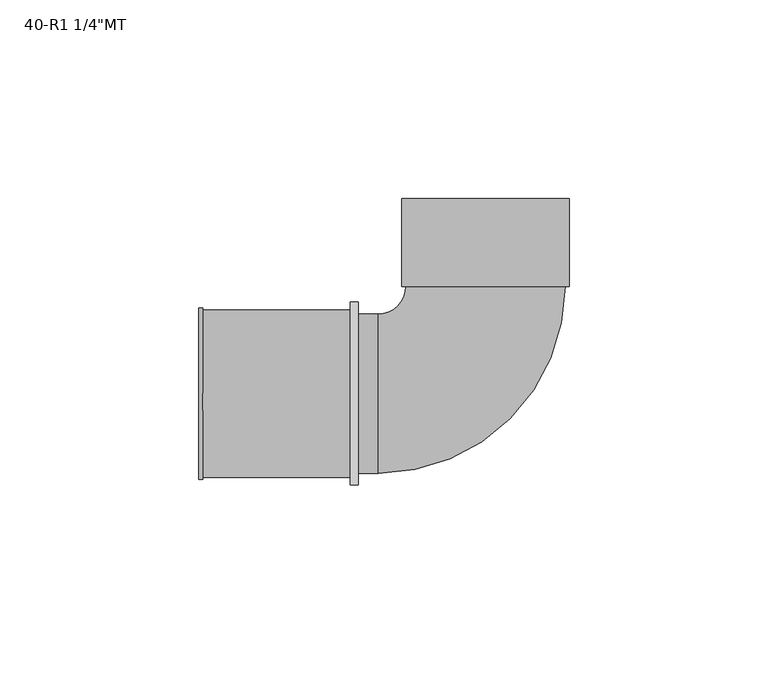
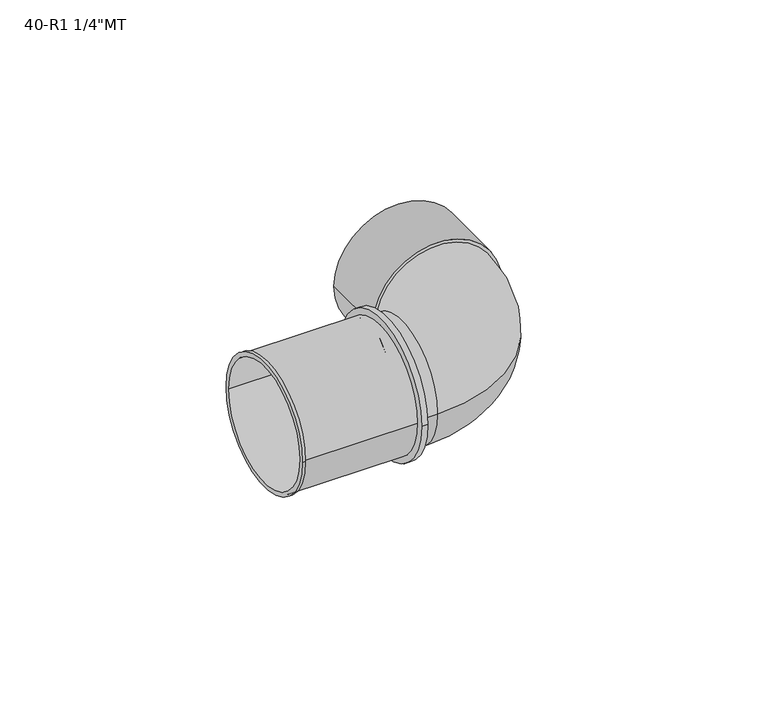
"""IFC4 building model written with IfcOpenShell, lengths in millimetres: pipe fitting geometry."""

from ifc_helpers import new_model, si_unit, point, frame, origin, origin_2d, place, context, project, spatial, polyline, circle_curve, ellipse_curve, trimmed, segment, composite_curve, outline, extrude, source, transform, mapped, element, save
from ifc_brep_helpers import plane_surface, cylinder_surface, revolved_surface, advanced_brep


def pipe_fitting_aa30d96a(model_context):
    return source(origin(), model_context, "Body", "SolidModel", [
        advanced_brep(
        [(20.0, 27.0, 0.0), (-20.0, 27.0, 0.0), (-27.0, 20.0, 0.0), (-27.0, -20.0, 0.0), (-32.0, -20.0, 0.0), (-32.0, 20.0, 0.0)],
        [
            (0, 1, circle_curve(frame((0.0, 27.0, 0.0), z_axis=(0.0, 1.0, 0.0), x_axis=(-1.0, 0.0, 0.0)), 20.0)),
            (1, 0, circle_curve(frame((0.0, 27.0, 0.0), z_axis=(0.0, 1.0, 0.0), x_axis=(-1.0, 0.0, 0.0)), 20.0)),
            (1, 2, circle_curve(frame((-27.0, 27.0, 0.0), z_axis=(0.0, 0.0, -1.0), x_axis=(0.0, -1.0, 0.0)), 7.0)),
            (2, 3, circle_curve(frame((-27.0, 0.0, 0.0), z_axis=(1.0, 0.0, 0.0), x_axis=(0.0, 1.0, 0.0)), 20.0)),
            (3, 0, circle_curve(frame((-27.0, 27.0, 0.0), z_axis=(0.0, 0.0, 1.0), x_axis=(0.0, -1.0, 0.0)), 47.0)),
            (3, 2, circle_curve(frame((-27.0, 0.0, 0.0), z_axis=(1.0, 0.0, 0.0), x_axis=(0.0, 1.0, 0.0)), 20.0)),
            (4, 5, circle_curve(frame((-32.0, 0.0, 0.0), z_axis=(-1.0, 0.0, 0.0), x_axis=(0.0, 1.0, 0.0)), 20.0)),
            (5, 4, circle_curve(frame((-32.0, 0.0, 0.0), z_axis=(-1.0, 0.0, 0.0), x_axis=(0.0, 1.0, 0.0)), 20.0)),
            (4, 3),
            (2, 5),
        ],
        [
            plane_surface(frame((0.0, 27.0, 0.0), z_axis=(0.0, 1.0, 0.0), x_axis=(0.0, 0.0, 1.0))),
            revolved_surface(trimmed(ellipse_curve(frame((-27.0, 0.0, 0.0), z_axis=(-1.0, 0.0, 0.0), x_axis=(0.0, 1.0, 0.0)), 20.0, 20.0), [point((-27.0, -20.0, 0.0))], [point((-27.0, 20.0, 0.0))], True, "CARTESIAN"), (-27.0, 27.0, 0.0), (0.0, 0.0, 1.0)),
            revolved_surface(trimmed(ellipse_curve(frame((-27.0, 0.0, 0.0), z_axis=(-1.0, 0.0, 0.0), x_axis=(0.0, 1.0, 0.0)), 20.0, 20.0), [point((-27.0, 20.0, 0.0))], [point((-27.0, -20.0, 0.0))], True, "CARTESIAN"), (-27.0, 27.0, 0.0), (0.0, 0.0, 1.0)),
            plane_surface(frame((-32.0, 0.0, 0.0), z_axis=(-1.0, 0.0, 0.0), x_axis=(0.0, 0.0, 1.0))),
            cylinder_surface(frame((-32.0, 0.0, 0.0), z_axis=(-1.0, 0.0, 0.0), x_axis=(0.0, 1.0, 0.0)), 20.0),
        ],
        [
            (0, [[1, 2]]),
            (1, [[-2, 3, 4, 5]]),
            (2, [[-1, -5, 6, -3]]),
            (3, [[7, 8]]),
            (4, [[-7, 9, -4, 10]]),
            (4, [[-8, -10, -6, -9]]),
        ],
    ),
        extrude(outline(composite_curve([segment(trimmed(circle_curve(origin_2d(), 21.0), [point((0.0, -21.0))], [point((0.0, 21.0))], False, "CARTESIAN"), True, "CONTINUOUS"), segment(trimmed(circle_curve(origin_2d(), 21.0), [point((0.0, 21.0))], [point((0.0, -21.0))], False, "CARTESIAN"), True, "CONTINUOUS")], self_intersect=False), holes=[composite_curve([segment(trimmed(circle_curve(origin_2d(), 17.0), [point((0.0, -17.0))], [point((0.0, 17.0))], True, "CARTESIAN"), True, "CONTINUOUS"), segment(trimmed(circle_curve(origin_2d(), 17.0), [point((0.0, 17.0))], [point((0.0, -17.0))], True, "CARTESIAN"), True, "CONTINUOUS")], self_intersect=False)]), frame((0.0, 27.0, 0.0), z_axis=(0.0, 1.0, 0.0), x_axis=(0.0, 0.0, 1.0)), (0.0, 0.0, 1.0), 22.0),
        extrude(outline(composite_curve([segment(trimmed(circle_curve(origin_2d(), 23.0), [point((-23.0, 0.0))], [point((23.0, 0.0))], False, "CARTESIAN"), True, "CONTINUOUS"), segment(trimmed(circle_curve(origin_2d(), 23.0), [point((23.0, 0.0))], [point((-23.0, 0.0))], False, "CARTESIAN"), True, "CONTINUOUS")], self_intersect=False), holes=[composite_curve([segment(trimmed(circle_curve(origin_2d(), 20.0), [point((-20.0, 0.0))], [point((20.0, 0.0))], True, "CARTESIAN"), True, "CONTINUOUS"), segment(trimmed(circle_curve(origin_2d(), 20.0), [point((20.0, 0.0))], [point((-20.0, 0.0))], True, "CARTESIAN"), True, "CONTINUOUS")], self_intersect=False)]), frame((-34.0, 0.0, 0.0), z_axis=(1.0, 0.0, 0.0), x_axis=(0.0, 1.0, 0.0)), (0.0, 0.0, 1.0), 2.0),
        advanced_brep(
        [(-72.0, -21.5, 0.0), (-72.0, 21.5, 0.0), (-72.0, -20.0, 0.0), (-72.0, 20.0, 0.0), (-34.0, -21.0, 0.0), (-34.0, 21.0, 0.0), (-34.0, -20.0, 0.0), (-34.0, 20.0, 0.0), (-71.0, 21.0, 0.0), (-71.0, -21.0, 0.0), (-71.0, -21.5, 0.0), (-71.0, 21.5, 0.0)],
        [
            (0, 1, circle_curve(frame((-72.0, 0.0, 0.0), z_axis=(-1.0, 0.0, 0.0), x_axis=(0.0, 1.0, 0.0)), 21.5)),
            (1, 0, circle_curve(frame((-72.0, 0.0, 0.0), z_axis=(-1.0, 0.0, 0.0), x_axis=(0.0, 1.0, 0.0)), 21.5)),
            (2, 3, circle_curve(frame((-72.0, 0.0, 0.0), z_axis=(1.0, 0.0, 0.0), x_axis=(0.0, 1.0, 0.0)), 20.0)),
            (3, 2, circle_curve(frame((-72.0, 0.0, 0.0), z_axis=(1.0, 0.0, 0.0), x_axis=(0.0, 1.0, 0.0)), 20.0)),
            (4, 5, circle_curve(frame((-34.0, 0.0, 0.0), z_axis=(1.0, 0.0, 0.0), x_axis=(0.0, 1.0, 0.0)), 21.0)),
            (5, 4, circle_curve(frame((-34.0, 0.0, 0.0), z_axis=(1.0, 0.0, 0.0), x_axis=(0.0, 1.0, 0.0)), 21.0)),
            (6, 7, circle_curve(frame((-34.0, 0.0, 0.0), z_axis=(-1.0, 0.0, 0.0), x_axis=(0.0, 1.0, 0.0)), 20.0)),
            (7, 6, circle_curve(frame((-34.0, 0.0, 0.0), z_axis=(-1.0, 0.0, 0.0), x_axis=(0.0, 1.0, 0.0)), 20.0)),
            (2, 6),
            (7, 3),
            (5, 8),
            (8, 9, circle_curve(frame((-71.0, 0.0, 0.0), z_axis=(1.0, 0.0, 0.0), x_axis=(0.0, 1.0, 0.0)), 21.0)),
            (9, 4),
            (9, 8, circle_curve(frame((-71.0, 0.0, 0.0), z_axis=(1.0, 0.0, 0.0), x_axis=(0.0, 1.0, 0.0)), 21.0)),
            (10, 11, circle_curve(frame((-71.0, 0.0, 0.0), z_axis=(1.0, 0.0, 0.0), x_axis=(0.0, 1.0, 0.0)), 21.5)),
            (11, 10, circle_curve(frame((-71.0, 0.0, 0.0), z_axis=(1.0, 0.0, 0.0), x_axis=(0.0, 1.0, 0.0)), 21.5)),
            (0, 10),
            (11, 1),
        ],
        [
            plane_surface(frame((-72.0, 0.0, 0.0), z_axis=(-1.0, 0.0, 0.0), x_axis=(0.0, 0.0, 1.0))),
            plane_surface(frame((-34.0, 0.0, 0.0), z_axis=(1.0, 0.0, 0.0), x_axis=(0.0, 0.0, 1.0))),
            revolved_surface(polyline([(-34.0, 20.0, 0.0), (-72.0, 20.0, 0.0)]), (-72.0, 0.0, 0.0), (1.0, 0.0, 0.0)),
            cylinder_surface(frame((-72.0, 0.0, 0.0), z_axis=(-1.0, 0.0, 0.0), x_axis=(0.0, 1.0, 0.0)), 21.0),
            plane_surface(frame((-71.0, 0.0, 0.0), z_axis=(1.0, 0.0, 0.0), x_axis=(0.0, 0.0, 1.0))),
            cylinder_surface(frame((-72.0, 0.0, 0.0), z_axis=(-1.0, 0.0, 0.0), x_axis=(0.0, 1.0, 0.0)), 21.5),
        ],
        [
            (0, [[1, 2], [3, 4]]),
            (1, [[5, 6], [7, 8]]),
            (2, [[-3, 9, -8, 10]]),
            (2, [[-4, -10, -7, -9]]),
            (3, [[-6, 11, 12, 13]]),
            (3, [[-5, -13, 14, -11]]),
            (4, [[15, 16], [-12, -14]]),
            (5, [[-1, 17, -16, 18]]),
            (5, [[-2, -18, -15, -17]]),
        ],
    ),
    ])


if __name__ == "__main__":
    model = new_model("IFC4")
    model_context = context("Model", 3, world=origin())
    ifc_project = project(units=[si_unit("LENGTHUNIT", "METRE", prefix="MILLI")], contexts=[model_context])
    site = spatial("IfcSite", under=ifc_project)
    building = spatial("IfcBuilding", under=site)
    placement = place(None, origin())
    pipe_fitting_shape = pipe_fitting_aa30d96a(model_context)
    element("IfcPipeFitting", 1, ObjectType="SuperPipe_ElbowAdapterMT_MAX_R : 40-R1 1/4\"MT", at=placement, inside=building, context=model_context, shape_type="MappedRepresentation", body=[
        mapped(pipe_fitting_shape, transform((0.0, 0.0, 0.0), x_axis=(1.0, 0.0, 0.0), y_axis=(0.0, 1.0, 0.0), z_axis=(0.0, 0.0, 1.0))),
    ])
    save(model, "model.ifc")
